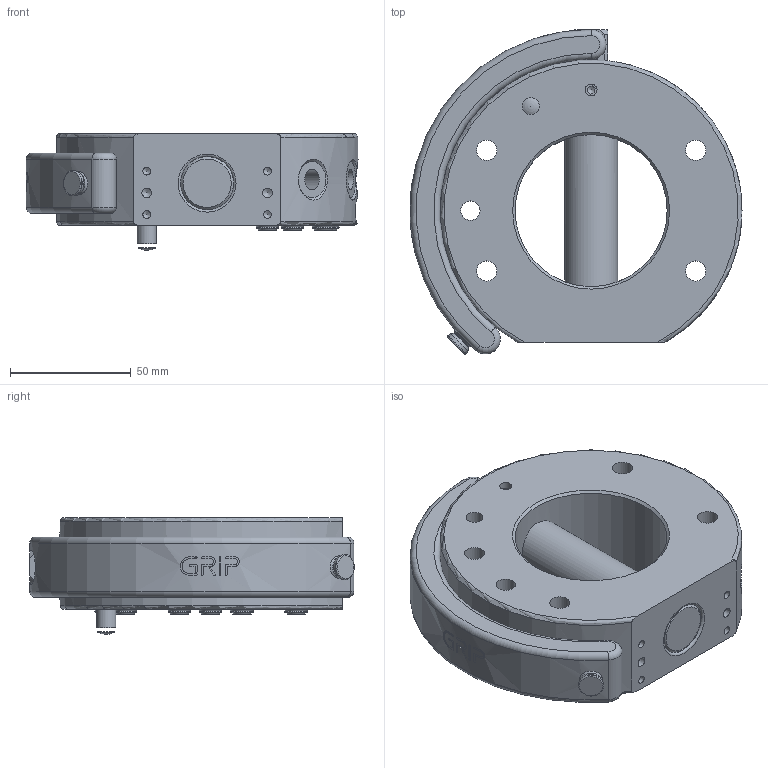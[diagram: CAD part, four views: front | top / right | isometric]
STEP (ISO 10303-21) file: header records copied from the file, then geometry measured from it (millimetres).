
FILE_DESCRIPTION(/* description */ (''),/* implementation_level */ '2;1');
FILE_NAME(/* name */ 'G-HWS125-O-K100_Rev.1.01.stp',/* time_stamp */ '2025-04-01T13:44:35+02:00',/* author */ ('ysplieth'),/* organization */ (''),/* preprocessor_version */ 'ST-DEVELOPER v20',/* originating_system */ 'Autodesk Inventor 2024',/* authorisation */ '');
FILE_SCHEMA (('AUTOMOTIVE_DESIGN { 1 0 10303 214 3 1 1 }'));
Length unit declared in the file: millimetre
Products named in the file (1): Bauteil6
Bounding box: 137.51 x 134.49 x 48.3 mm (x, y, z)
Volume: 386968.3 mm3; surface area: 67744.7 mm2
Topology: 1 solids, 3 shells, 438 faces, 1129 edges, 746 vertices
Faces by surface type: plane 172, cylinder 112, bspline 87, cone 43, torus 22, sphere 2
Full cylindrical faces by diameter (mm): 0.743 x1, 3.242 x4, 4 x2, 4.8 x1, 4.917 x2, 5 x6, 5.2 x6, 6 x3, 6.5 x1, 7 x1, 8 x2, 8.376 x4, 8.566 x6, 9.9 x6, 10.6 x1, 15 x4, 22 x2, 63 x1
Entity records: 17019 total; most frequent: CARTESIAN_POINT 6576, ORIENTED_EDGE 2226, DIRECTION 1767, EDGE_CURVE 1113, VERTEX_POINT 746, AXIS2_PLACEMENT_3D 619, EDGE_LOOP 535, LINE 529
